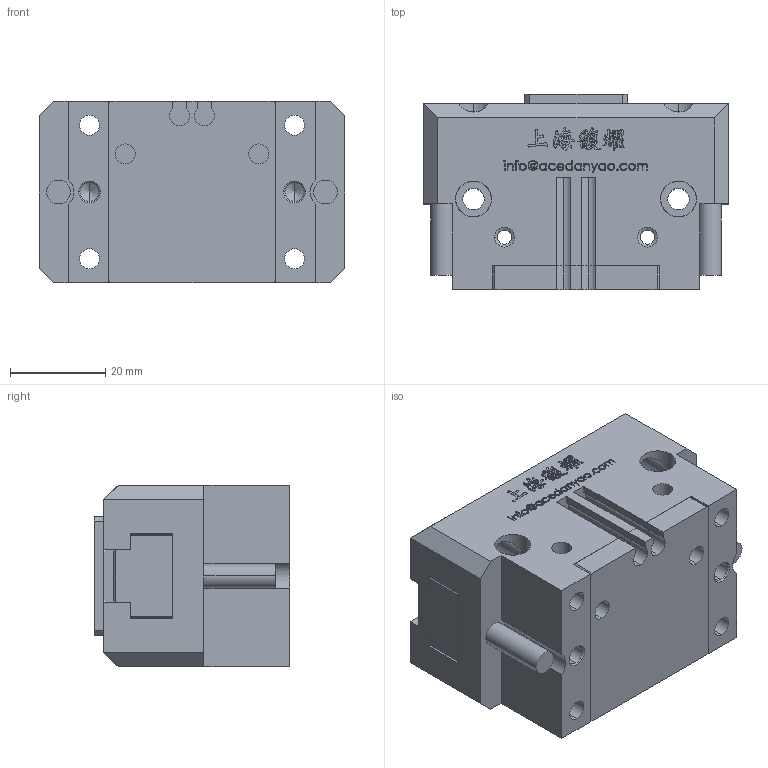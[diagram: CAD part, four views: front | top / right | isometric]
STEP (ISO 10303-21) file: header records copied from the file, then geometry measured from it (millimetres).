
FILE_DESCRIPTION (( 'STEP AP203' ), '1' );
FILE_NAME ('OPP2-64-C1-原始檔-組合-W106.04.18.STEP', '2017-04-18T08:34:59', ( 'DanyaoCAD' ), ( '' ), 'SwSTEP 2.0', 'SolidWorks 2016', '' );
FILE_SCHEMA (( 'CONFIG_CONTROL_DESIGN' ));
Length unit declared in the file: millimetre
Products named in the file (5): Coperchio; Fondello; Griffa; Corpo; OPP2-64-C1-原始檔-組合-W106.04.18
Assembly tree (5 placements, depth 2):
  OPP2-64-C1-原始檔-組合-W106.04.18
    Coperchio
    Fondello
    Griffa  x2
    Corpo
Bounding box: 64 x 41 x 38 mm (x, y, z)
Volume: 75540.5 mm3; surface area: 29476.2 mm2
Topology: 5 solids, 5 shells, 1079 faces, 3017 edges, 1980 vertices
Faces by surface type: bspline 640, plane 286, cylinder 103, cone 50
Entity records: 50110 total; most frequent: CARTESIAN_POINT 27293, ORIENTED_EDGE 5774, EDGE_CURVE 2887, DIRECTION 2567, VERTEX_POINT 1906, LINE 1359, VECTOR 1359, B_SPLINE_CURVE_WITH_KNOTS 1302
